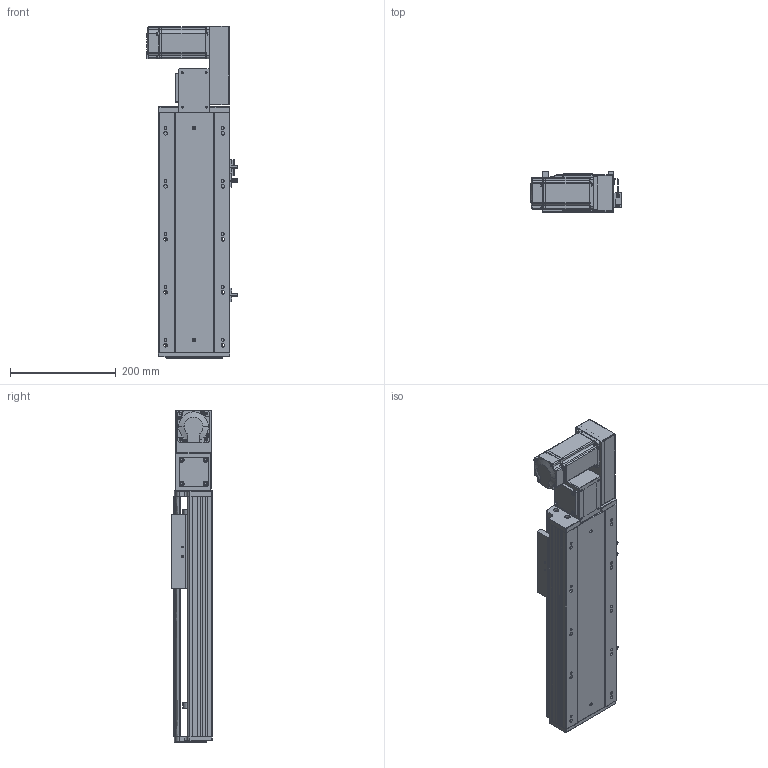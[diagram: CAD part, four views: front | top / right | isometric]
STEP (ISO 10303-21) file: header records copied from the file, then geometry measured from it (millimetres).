
FILE_DESCRIPTION (( 'STEP AP203' ), '1' );
FILE_NAME ('RY140-T-300-RK.SLDASM_200.step', '2021-03-01T06:44:46', ( '盈信电脑' ), ( '东莞市道滘镇水果街19号' ), 'SwSTEP 2.0', 'SolidWorks 2012', '' );
FILE_SCHEMA (( 'CONFIG_CONTROL_DESIGN' ));
Products named in the file (17): RY120-T主同步轮轴承压盖; RY140-T-300-RK.SLDASM_200; RY140-T萇儂欶; RY140-T萇儂假蚾啣; RY120-T蹟翐M4; 15; 滅袉蝶18-10; RY140-T翋肮祭謫盓傅釱; RY140-T翋肮謫裔啣; RY120-T肮祭湍揤踡輸1; RY120外置感应片(140共用）; 覜茼ん672; RY140綴裔啣; RY120-T肮祭湍揤踡輸2; RY140-T-300-DR倰第菁釱_200; RY140肮祭謫臏賑輸; RY140-T-300-DR倰第奻裔啣_200
Assembly tree (22 placements, depth 2):
  RY140-T-300-RK.SLDASM_200
    RY140-T-300-DR倰第菁釱_200
    RY140肮祭謫臏賑輸
    RY140-T-300-DR倰第奻裔啣_200
    RY140綴裔啣
    覜茼ん672  x3
    RY120外置感应片(140共用）
    RY120-T肮祭湍揤踡輸2
    RY120-T肮祭湍揤踡輸1
    RY140-T翋肮祭謫盓傅釱
    滅袉蝶18-10  x2
    RY140-T翋肮謫裔啣
    RY140-T萇儂欶
    RY140-T萇儂假蚾啣
    RY120-T蹟翐M4  x4
    15
    RY120-T主同步轮轴承压盖
Bounding box: 170.7 x 78 x 626.5 mm (x, y, z)
Volume: 2082097.1 mm3; surface area: 743167.5 mm2
Topology: 22 solids, 22 shells, 2531 faces, 6909 edges, 4466 vertices
Faces by surface type: plane 1385, cylinder 880, cone 166, bspline 100
Entity records: 79954 total; most frequent: CARTESIAN_POINT 19629, ORIENTED_EDGE 12410, DIRECTION 11729, EDGE_CURVE 6205, VERTEX_POINT 4065, LINE 4053, VECTOR 4053, AXIS2_PLACEMENT_3D 3838
